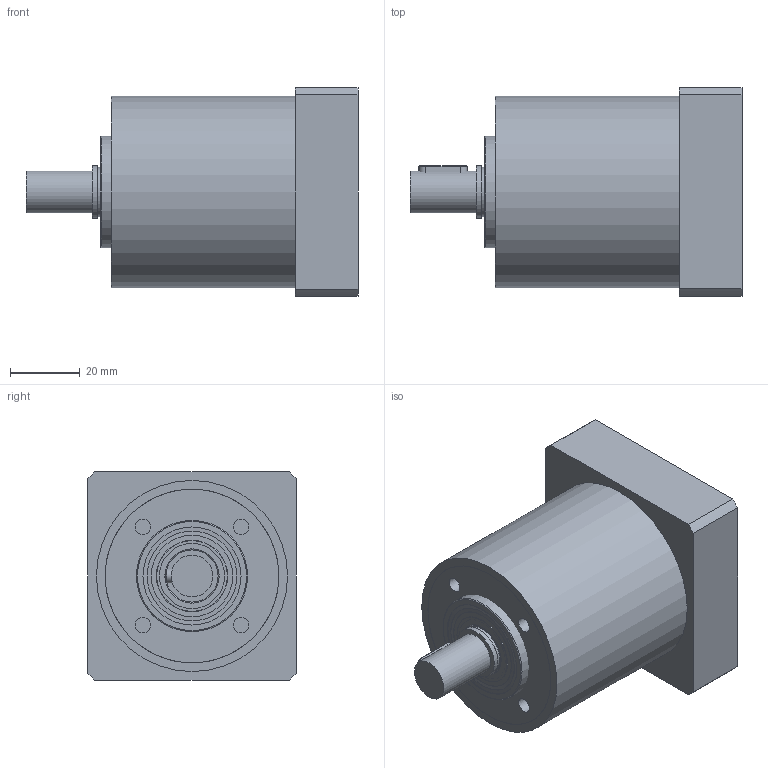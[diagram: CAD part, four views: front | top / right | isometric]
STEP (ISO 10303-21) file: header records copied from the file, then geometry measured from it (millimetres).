
FILE_DESCRIPTION(/* description */ (''),/* implementation_level */ '2;1');
FILE_NAME(/* name */ 'E00017964713MP040509075843_step214.stp',/* time_stamp */ '2009-05-04T08:02:02+02:00',/* author */ (''),/* organization */ (''),/* preprocessor_version */ 'ST-DEVELOPER v11',/* originating_system */ 'UGS - NX 5.0',/* authorisation */ '');
FILE_SCHEMA (('AUTOMOTIVE_DESIGN { 1 0 10303 214 0 1 1 1 }'));
Length unit declared in the file: millimetre
Products named in the file (1): E00017964713MP040509075843_M
Bounding box: 95.5 x 60 x 60 mm (x, y, z)
Volume: 237268.6 mm3; surface area: 57299.2 mm2
Topology: 12 solids, 12 shells, 140 faces, 288 edges, 183 vertices
Faces by surface type: cylinder 53, plane 50, cone 27, torus 10
Full cylindrical faces by diameter (mm): 3.432 x9, 4.351 x4, 4.5 x1, 6.35 x1, 7.5 x1, 9.75 x1, 10 x1, 12 x1, 14.3 x1, 15 x4, 18.7 x2, 20.5 x2, 27 x2, 28.2 x4, 32 x1, 35.5 x1, 38.1 x1, 43 x1, 46.8 x1, 49.95 x1, 50 x3, 55 x1
Entity records: 3266 total; most frequent: DIRECTION 584, CARTESIAN_POINT 554, ORIENTED_EDGE 362, AXIS2_PLACEMENT_3D 265, EDGE_LOOP 244, FACE_BOUND 220, EDGE_CURVE 181, VERTEX_POINT 165
